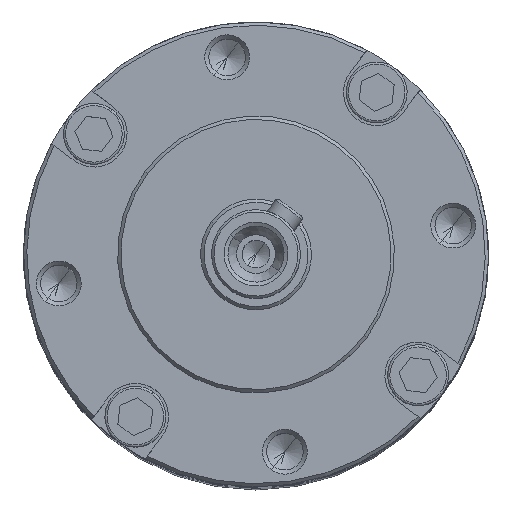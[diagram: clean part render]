
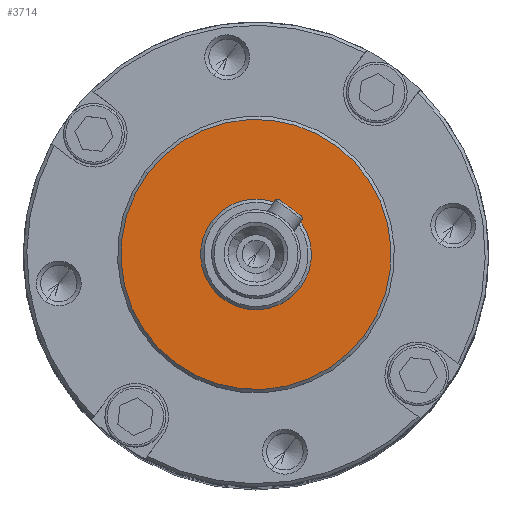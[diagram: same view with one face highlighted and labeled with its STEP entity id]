
A CAD part, top view. The second image highlights one B-rep face of the part: STEP entity #3714.
In plain terms, the highlighted planar face has unit normal (0, 0, 1) as drawn and (0, 1, 0) by its records, which use the part's own axes.
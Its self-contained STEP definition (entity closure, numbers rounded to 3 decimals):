
#145 = AXIS2_PLACEMENT_3D ( 'NONE', #4266, #2306, #3846 ) ;
#295 = EDGE_CURVE ( 'NONE', #3219, #4316, #1617, .T. ) ;
#407 = CARTESIAN_POINT ( 'NONE',  ( 12.2, 13.2, 0. ) ) ;
#525 = ORIENTED_EDGE ( 'NONE', *, *, #295, .F. ) ;
#577 = CIRCLE ( 'NONE', #1811, 5. ) ;
#701 = CARTESIAN_POINT ( 'NONE',  ( 0., 13.2, 5. ) ) ;
#881 = CIRCLE ( 'NONE', #1539, 5. ) ;
#1018 = FACE_BOUND ( 'NONE', #3652, .T. ) ;
#1227 = DIRECTION ( 'NONE',  ( 0., -1., 0. ) ) ;
#1266 = DIRECTION ( 'NONE',  ( 0., -1., 0. ) ) ;
#1407 = PLANE ( 'NONE',  #4617 ) ;
#1539 = AXIS2_PLACEMENT_3D ( 'NONE', #1607, #3172, #4757 ) ;
#1607 = CARTESIAN_POINT ( 'NONE',  ( 0., 13.2, 0. ) ) ;
#1617 = CIRCLE ( 'NONE', #2931, 12.2 ) ;
#1748 = CARTESIAN_POINT ( 'NONE',  ( 0., 13.2, 0. ) ) ;
#1811 = AXIS2_PLACEMENT_3D ( 'NONE', #3516, #1227, #4731 ) ;
#1915 = VERTEX_POINT ( 'NONE', #2749 ) ;
#2122 = ORIENTED_EDGE ( 'NONE', *, *, #3238, .T. ) ;
#2306 = DIRECTION ( 'NONE',  ( 0., -1., 0. ) ) ;
#2405 = DIRECTION ( 'NONE',  ( 1., 0., 0. ) ) ;
#2749 = CARTESIAN_POINT ( 'NONE',  ( 0., 13.2, -5. ) ) ;
#2931 = AXIS2_PLACEMENT_3D ( 'NONE', #4823, #1266, #2405 ) ;
#3088 = CARTESIAN_POINT ( 'NONE',  ( -12.2, 13.2, 0. ) ) ;
#3172 = DIRECTION ( 'NONE',  ( 0., -1., 0. ) ) ;
#3219 = VERTEX_POINT ( 'NONE', #407 ) ;
#3238 = EDGE_CURVE ( 'NONE', #3469, #1915, #577, .T. ) ;
#3469 = VERTEX_POINT ( 'NONE', #701 ) ;
#3516 = CARTESIAN_POINT ( 'NONE',  ( 0., 13.2, 0. ) ) ;
#3646 = EDGE_LOOP ( 'NONE', ( #525, #4344 ) ) ;
#3652 = EDGE_LOOP ( 'NONE', ( #3733, #2122 ) ) ;
#3714 = ADVANCED_FACE ( 'NONE', ( #1018, #4917 ), #1407, .T. ) ;
#3733 = ORIENTED_EDGE ( 'NONE', *, *, #4069, .T. ) ;
#3846 = DIRECTION ( 'NONE',  ( 1., 0., 0. ) ) ;
#3848 = EDGE_CURVE ( 'NONE', #4316, #3219, #4170, .T. ) ;
#4069 = EDGE_CURVE ( 'NONE', #1915, #3469, #881, .T. ) ;
#4163 = DIRECTION ( 'NONE',  ( 0., 1., 0. ) ) ;
#4170 = CIRCLE ( 'NONE', #145, 12.2 ) ;
#4266 = CARTESIAN_POINT ( 'NONE',  ( 0., 13.2, 0. ) ) ;
#4316 = VERTEX_POINT ( 'NONE', #3088 ) ;
#4344 = ORIENTED_EDGE ( 'NONE', *, *, #3848, .F. ) ;
#4533 = DIRECTION ( 'NONE',  ( 0., 0., 1. ) ) ;
#4617 = AXIS2_PLACEMENT_3D ( 'NONE', #1748, #4163, #4533 ) ;
#4731 = DIRECTION ( 'NONE',  ( 0., 0., -1. ) ) ;
#4757 = DIRECTION ( 'NONE',  ( 0., 0., -1. ) ) ;
#4823 = CARTESIAN_POINT ( 'NONE',  ( 0., 13.2, 0. ) ) ;
#4917 = FACE_OUTER_BOUND ( 'NONE', #3646, .T. ) ;
